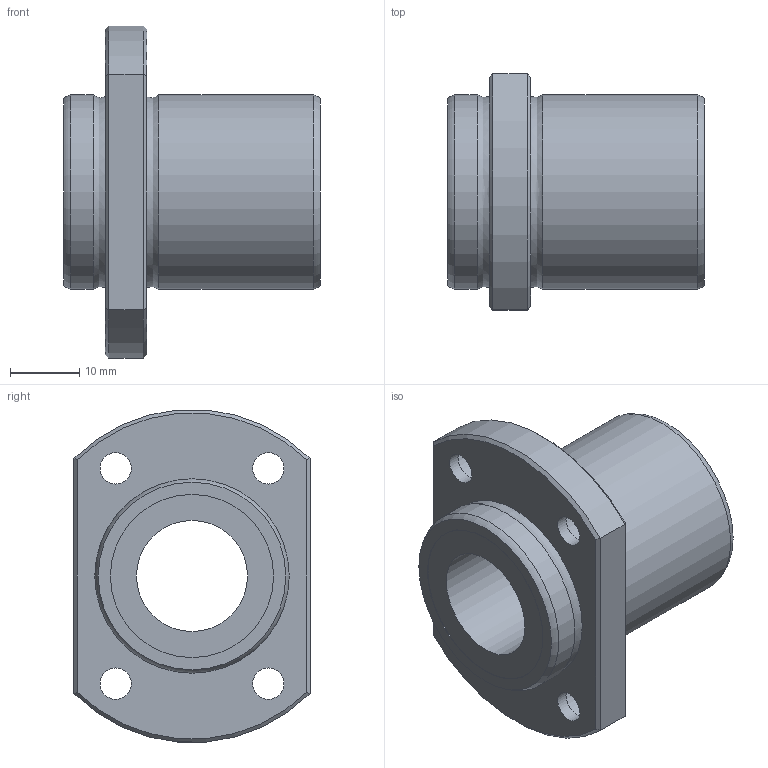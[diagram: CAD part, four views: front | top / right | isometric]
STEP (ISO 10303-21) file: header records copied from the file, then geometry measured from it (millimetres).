
FILE_DESCRIPTION((''),'2;1');
FILE_NAME('D:\製品 (図面)\カタログ用3D\リニアベアリング関連\STEP形式\LFTB\LFTB16.stp','2010-06-04T09:23:45',('Tsuchiya'),(''),'Autodesk Inventor 10','Autodesk Inventor 10','');
FILE_SCHEMA(('AUTOMOTIVE_DESIGN { 1 0 10303 214 1 1 1 1 }'));
Length unit declared in the file: millimetre
Products named in the file (1): LFTB16
Bounding box: 37 x 34 x 47.82 mm (x, y, z)
Volume: 19362.5 mm3; surface area: 8318.8 mm2
Topology: 1 solids, 1 shells, 39 faces, 75 edges, 46 vertices
Faces by surface type: bspline 14, plane 12, cylinder 7, cone 4, torus 2
Full cylindrical faces by diameter (mm): 16 x1, 23.5 x2, 28 x2
Entity records: 1177 total; most frequent: CARTESIAN_POINT 440, DIRECTION 140, ORIENTED_EDGE 116, EDGE_LOOP 74, AXIS2_PLACEMENT_3D 64, EDGE_CURVE 58, VERTEX_POINT 46, FACE_OUTER_BOUND 39
